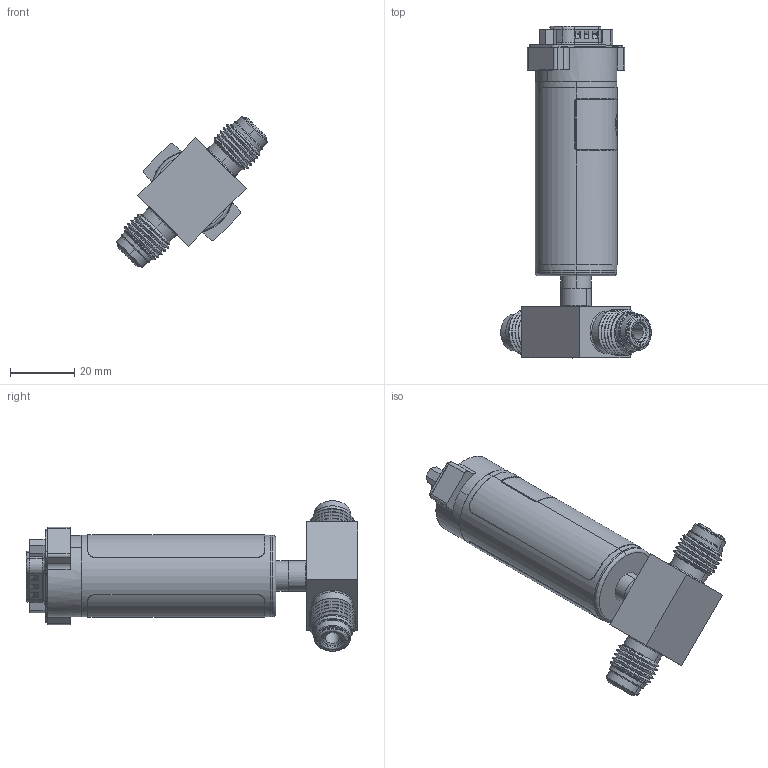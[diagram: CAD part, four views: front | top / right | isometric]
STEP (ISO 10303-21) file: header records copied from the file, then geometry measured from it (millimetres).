
FILE_DESCRIPTION (( 'STEP AP214' ), '1' );
FILE_NAME ('GSF-XXXXXX-K-XXX-VM.STEP', '2025-06-18T18:51:13', ( '' ), ( '' ), 'SwSTEP 2.0', 'SolidWorks 2023', '' );
FILE_SCHEMA (( 'AUTOMOTIVE_DESIGN' ));
Length unit declared in the file: inch
Products named in the file (4): GSF-XXXXXX-K-XXX-VM; 333125_A333125004; GSx Body_Integrated Connector; GS K
Assembly tree (3 placements, depth 2):
  GSF-XXXXXX-K-XXX-VM
    GSx Body_Integrated Connector
    GS K
    333125_A333125004
Bounding box: 46.82 x 103.29 x 46.82 mm (x, y, z)
Volume: 24983.6 mm3; surface area: 20157.8 mm2
Topology: 6 solids, 10 shells, 644 faces, 1643 edges, 1056 vertices
Faces by surface type: cylinder 221, plane 214, bspline 102, cone 73, torus 34
Entity records: 26214 total; most frequent: CARTESIAN_POINT 11167, ORIENTED_EDGE 3278, DIRECTION 2934, EDGE_CURVE 1639, AXIS2_PLACEMENT_3D 1145, VERTEX_POINT 1056, EDGE_LOOP 709, ADVANCED_FACE 644
